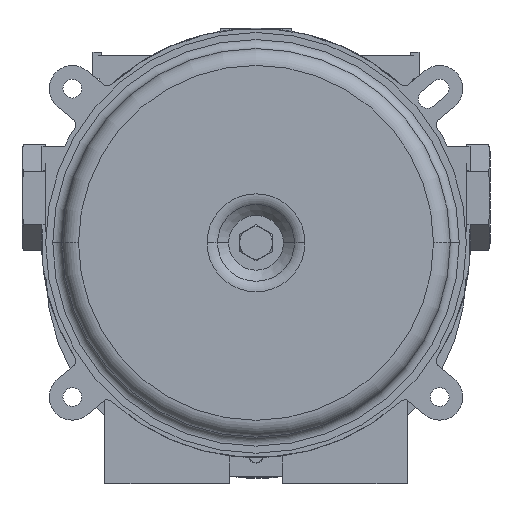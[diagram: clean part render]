
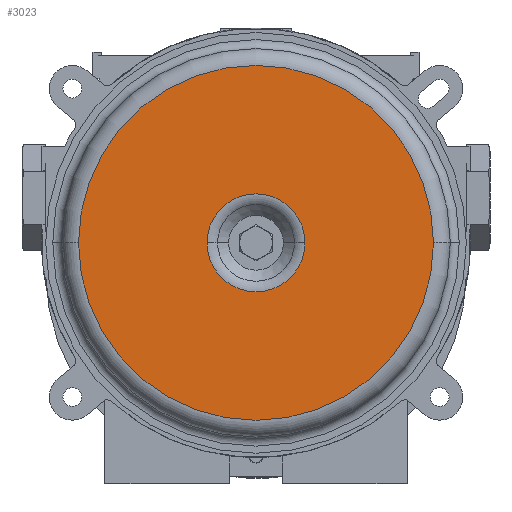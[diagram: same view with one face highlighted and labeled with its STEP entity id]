
A CAD part, front view. The second image highlights one B-rep face of the part: STEP entity #3023.
In plain terms, the highlighted planar face has unit normal (0, -1, 0).
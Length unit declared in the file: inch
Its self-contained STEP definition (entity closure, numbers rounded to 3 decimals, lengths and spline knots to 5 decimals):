
#2107=CARTESIAN_POINT('',(0.,-3.772,0.27));
#2108=DIRECTION('',(0.,-1.,0.));
#2109=DIRECTION('',(-1.,0.,0.));
#2110=AXIS2_PLACEMENT_3D('',#2107,#2108,#2109);
#2112=CARTESIAN_POINT('',(0.,-3.772,0.27));
#2113=DIRECTION('',(0.,-1.,0.));
#2114=DIRECTION('',(1.,0.,0.));
#2115=AXIS2_PLACEMENT_3D('',#2112,#2113,#2114);
#2117=CARTESIAN_POINT('',(0.,-3.772,0.27));
#2118=DIRECTION('',(0.,1.,0.));
#2119=DIRECTION('',(-1.,0.,0.));
#2120=AXIS2_PLACEMENT_3D('',#2117,#2118,#2119);
#2122=CARTESIAN_POINT('',(0.,-3.772,0.27));
#2123=DIRECTION('',(0.,1.,0.));
#2124=DIRECTION('',(1.,0.,0.));
#2125=AXIS2_PLACEMENT_3D('',#2122,#2123,#2124);
#2466=CARTESIAN_POINT('',(0.46582,-3.772,0.27));
#2467=VERTEX_POINT('',#2466);
#2468=CARTESIAN_POINT('',(-0.46582,-3.772,0.27));
#2469=VERTEX_POINT('',#2468);
#2470=CARTESIAN_POINT('',(-1.6875,-3.772,0.27));
#2471=CARTESIAN_POINT('',(1.6875,-3.772,0.27));
#2472=VERTEX_POINT('',#2470);
#2473=VERTEX_POINT('',#2471);
#3008=CARTESIAN_POINT('',(0.,-3.772,0.27));
#3009=DIRECTION('',(0.,1.,0.));
#3010=DIRECTION('',(-1.,0.,0.));
#3011=AXIS2_PLACEMENT_3D('',#3008,#3009,#3010);
#3012=PLANE('',#3011);
#3013=ORIENTED_EDGE('',*,*,#3003,.F.);
#3014=ORIENTED_EDGE('',*,*,#2987,.F.);
#3015=EDGE_LOOP('',(#3013,#3014));
#3016=FACE_OUTER_BOUND('',#3015,.F.);
#3018=ORIENTED_EDGE('',*,*,#3017,.F.);
#3020=ORIENTED_EDGE('',*,*,#3019,.F.);
#3021=EDGE_LOOP('',(#3018,#3020));
#3022=FACE_BOUND('',#3021,.F.);
#3023=ADVANCED_FACE('',(#3016,#3022),#3012,.F.);
#2111=CIRCLE('',#2110,1.6875);
#2116=CIRCLE('',#2115,1.6875);
#2121=CIRCLE('',#2120,0.46582);
#2126=CIRCLE('',#2125,0.46582);
#2987=EDGE_CURVE('',#2473,#2472,#2116,.T.);
#3003=EDGE_CURVE('',#2472,#2473,#2111,.T.);
#3017=EDGE_CURVE('',#2469,#2467,#2121,.T.);
#3019=EDGE_CURVE('',#2467,#2469,#2126,.T.);
